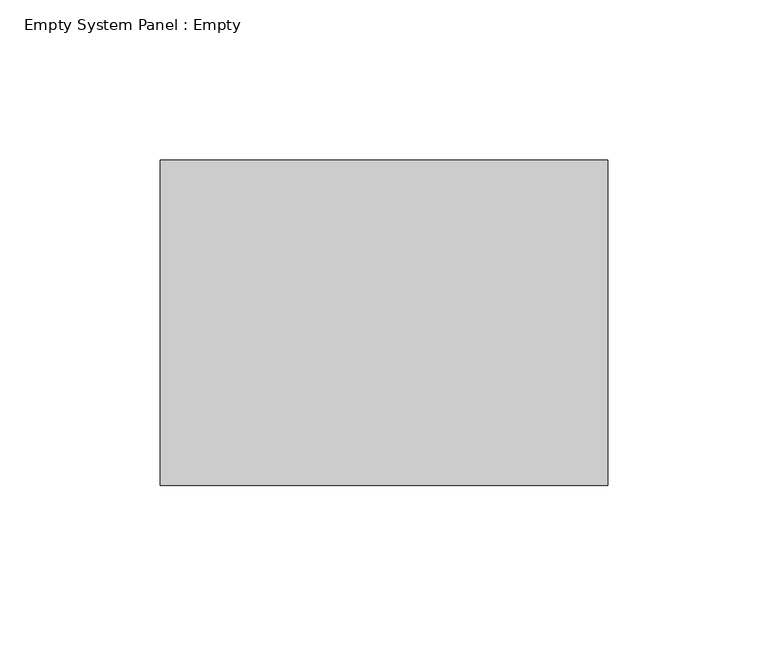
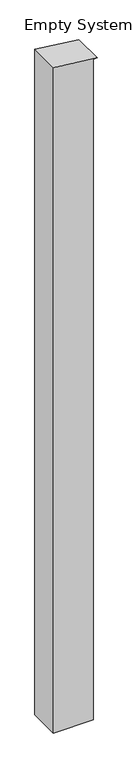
"""IFC4 building model written with IfcOpenShell, lengths in millimetres: plate geometry, Empty System Panel : Empty."""

from ifc_helpers import new_model, si_unit, frame, origin, place, context, project, spatial, polyline, outline, extrude, source, transform, mapped, element, save


def empty_system_panel_empty_6ac2e2b0(model_context):
    return source(origin(), model_context, "Body", "SweptSolid", [
        extrude(outline(polyline([(0.0, -69.85), (0.0, 57.15), (2229.9868367, 57.15), (2229.9868367, 69.85), (2245.6120267, -69.85), (0.0, -69.85)])), frame((0.0, -50.8, 0.0), z_axis=(0.0, 1.0, 0.0), x_axis=(0.0, 0.0, 1.0)), (0.0, 0.0, 1.0), 101.6),
    ])


if __name__ == "__main__":
    model = new_model("IFC4")
    model_context = context("Model", 3, world=origin())
    ifc_project = project(units=[si_unit("LENGTHUNIT", "METRE", prefix="MILLI")], contexts=[model_context])
    site = spatial("IfcSite", under=ifc_project)
    building = spatial("IfcBuilding", under=site)
    placement = place(None, origin())
    empty_system_panel_empty_shape = empty_system_panel_empty_6ac2e2b0(model_context)
    element("IfcPlate", 1, ObjectType="Empty System Panel : Empty", at=placement, inside=building, context=model_context, shape_type="MappedRepresentation", body=[
        mapped(empty_system_panel_empty_shape, transform((0.0, 0.0, 0.0), x_axis=(1.0, 0.0, 0.0), y_axis=(0.0, 1.0, 0.0), z_axis=(0.0, 0.0, 1.0))),
    ])
    save(model, "model.ifc")
